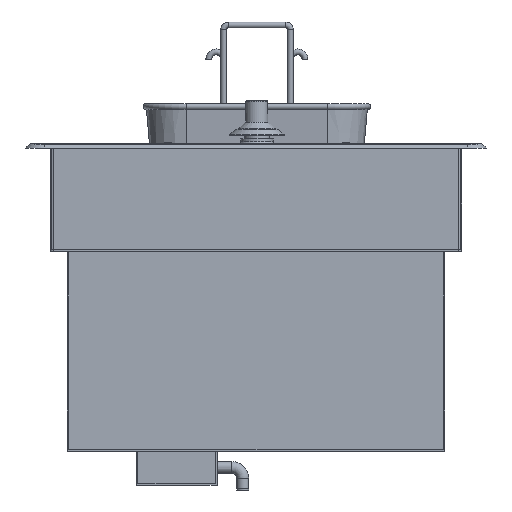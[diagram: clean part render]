
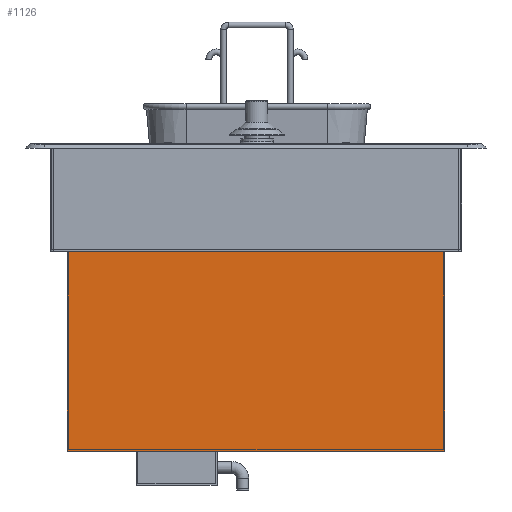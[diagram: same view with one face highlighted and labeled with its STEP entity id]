
A CAD part, front view. The second image highlights one B-rep face of the part: STEP entity #1126.
In plain terms, the highlighted planar face has unit normal (0, -1, 0).
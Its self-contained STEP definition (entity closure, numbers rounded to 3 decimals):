
#1126=ADVANCED_FACE('',(#1684),#1530,.F.);
#1530=PLANE('',#6307);
#1684=FACE_OUTER_BOUND('',#2013,.T.);
#2013=EDGE_LOOP('',(#2503,#2504,#2505,#2506));
#2503=ORIENTED_EDGE('',*,*,#4702,.F.);
#2504=ORIENTED_EDGE('',*,*,#4701,.T.);
#2505=ORIENTED_EDGE('',*,*,#4703,.T.);
#2506=ORIENTED_EDGE('',*,*,#4693,.F.);
#4151=VERTEX_POINT('',#8684);
#4153=VERTEX_POINT('',#8687);
#4157=VERTEX_POINT('',#8699);
#4158=VERTEX_POINT('',#8701);
#4693=EDGE_CURVE('',#4151,#4153,#5523,.T.);
#4701=EDGE_CURVE('',#4157,#4158,#5531,.T.);
#4702=EDGE_CURVE('',#4157,#4151,#5532,.T.);
#4703=EDGE_CURVE('',#4158,#4153,#5533,.T.);
#5523=LINE('',#8686,#5908);
#5531=LINE('',#8702,#5916);
#5532=LINE('',#8704,#5917);
#5533=LINE('',#8705,#5918);
#5908=VECTOR('',#6967,1.);
#5916=VECTOR('',#6979,1.);
#5917=VECTOR('',#6982,1.);
#5918=VECTOR('',#6983,1.);
#6307=AXIS2_PLACEMENT_3D('',#8706,#6984,#6985);
#6967=DIRECTION('',(0.,0.,1.));
#6979=DIRECTION('',(0.,0.,1.));
#6982=DIRECTION('',(-1.,0.,0.));
#6983=DIRECTION('',(-1.,0.,0.));
#6984=DIRECTION('',(0.,1.,0.));
#6985=DIRECTION('',(-1.,0.,0.));
#8684=CARTESIAN_POINT('',(-342.478,512.244,-135.));
#8686=CARTESIAN_POINT('',(-342.478,512.244,-140.));
#8687=CARTESIAN_POINT('',(-342.478,512.244,0.));
#8699=CARTESIAN_POINT('',(-87.478,512.244,-135.));
#8701=CARTESIAN_POINT('',(-87.478,512.244,0.));
#8702=CARTESIAN_POINT('',(-87.478,512.244,-140.));
#8704=CARTESIAN_POINT('',(-87.478,512.244,-135.));
#8705=CARTESIAN_POINT('',(-87.478,512.244,0.));
#8706=CARTESIAN_POINT('',(-87.478,512.244,-140.));
